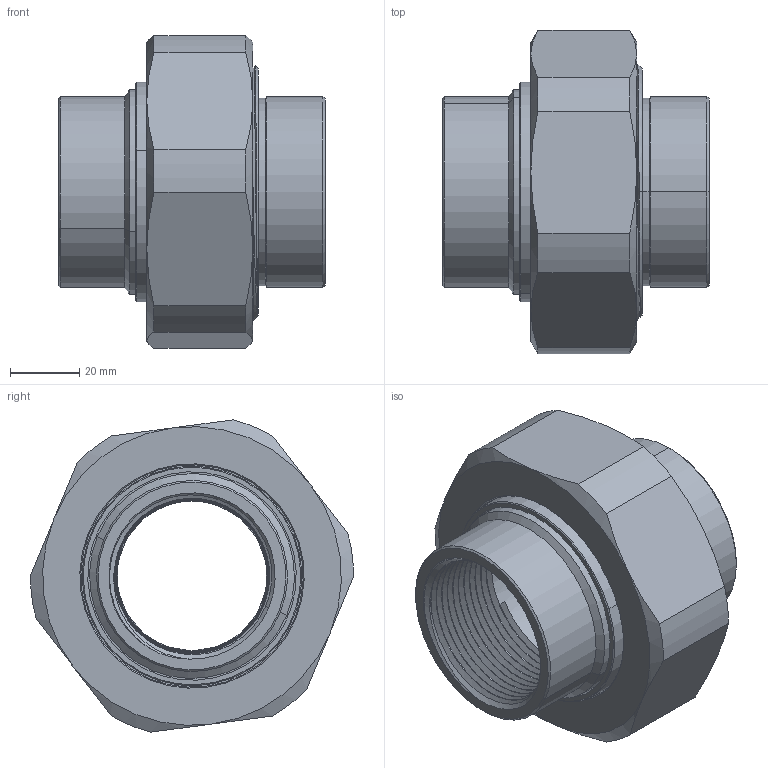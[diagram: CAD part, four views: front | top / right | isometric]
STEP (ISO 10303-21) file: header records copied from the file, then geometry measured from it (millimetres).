
FILE_DESCRIPTION (( 'STEP AP203' ), '1' );
FILE_NAME ('701-407.STEP', '2022-03-21T05:29:12', ( '' ), ( '' ), 'SwSTEP 2.0', 'SolidWorks 2012', '' );
FILE_SCHEMA (( 'CONFIG_CONTROL_DESIGN' ));
Length unit declared in the file: millimetre
Products named in the file (6): 701-407; 铁内牙接头（放在尼龙隔套里面）; 呿蹋杶; 内牙接头（网纹滚花）; 菜え; 鞠褒簽
Assembly tree (5 placements, depth 2):
  701-407
    鞠褒簽
    菜え
    呿蹋杶
    内牙接头（网纹滚花）
    铁内牙接头（放在尼龙隔套里面）
Bounding box: 76.8 x 93 x 89.91 mm (x, y, z)
Volume: 179313.6 mm3; surface area: 78757.2 mm2
Topology: 5 solids, 5 shells, 193 faces, 488 edges, 311 vertices
Faces by surface type: cone 94, cylinder 62, plane 25, bspline 8, torus 4
Entity records: 16080 total; most frequent: CARTESIAN_POINT 11182, ORIENTED_EDGE 976, DIRECTION 795, EDGE_CURVE 488, AXIS2_PLACEMENT_3D 320, VERTEX_POINT 311, EDGE_LOOP 209, FACE_OUTER_BOUND 193
